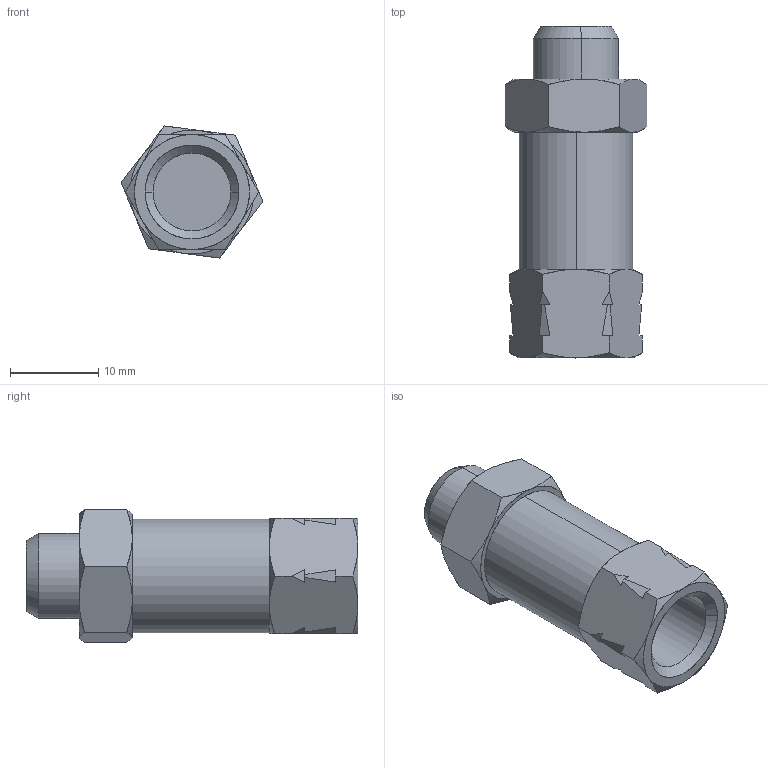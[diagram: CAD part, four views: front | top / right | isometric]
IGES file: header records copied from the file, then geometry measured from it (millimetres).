
Start section: SolidWorks IGES file using analytic representation for surfaces
Global section: file name: K:\Disegni Esecutivi\ACCESSORI\6063\6063_iges\0606300002A.IGS; native system: SolidWorks 2011; preprocessor: SolidWorks 2011; author: cad05; date: 110608.120204; units: millimetre
Bounding box: 16.03 x 37.5 x 14.93 mm (x, y, z)
Surface area: 2092.4 mm2 (no closed solid volume)
Topology: 0 solids, 0 shells, 76 faces, 952 edges, 952 vertices
Faces by surface type: bspline 42, revolution 34
